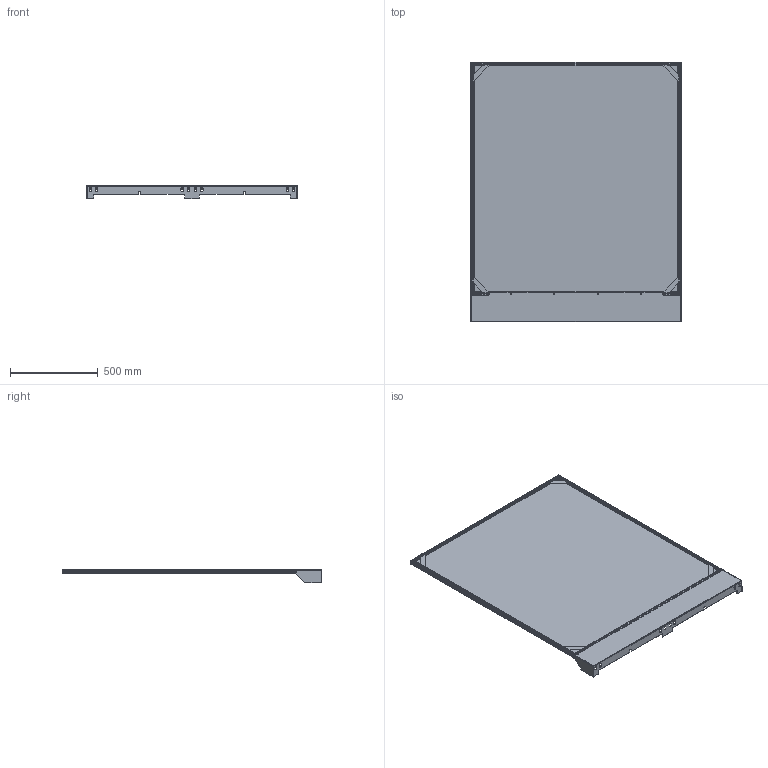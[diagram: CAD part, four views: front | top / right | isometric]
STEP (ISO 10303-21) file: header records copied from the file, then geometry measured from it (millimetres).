
FILE_DESCRIPTION (( 'STEP AP203' ), '1' );
FILE_NAME ('pcpps1200.STEP', '2021-01-26T16:37:26', ( '' ), ( '' ), 'SwSTEP 2.0', 'SolidWorks 2016', '' );
FILE_SCHEMA (( 'CONFIG_CONTROL_DESIGN' ));
Length unit declared in the file: inch
Products named in the file (11): 89186703_DEFAULT; 89186868_DEFAULT; pcpps1200; 89185883_DEFAULT; 89184919_600W; 89184821_DEFAULT; 89186876_DEFAULT; 89184823; 89184808; 89185586; 89186646_5537T425
Assembly tree (47 placements, depth 3):
  pcpps1200
    89184823
    89186868_DEFAULT
      89185586
      89184919_600W  x2
      89184821_DEFAULT  x2
      89184808  x4
      89186703_DEFAULT  x2
      89185883_DEFAULT  x2
      89186646_5537T425  x8
      89186876_DEFAULT  x24
Bounding box: 1199 x 1479.57 x 77.8 mm (x, y, z)
Volume: 6338713.9 mm3; surface area: 4697739.9 mm2
Topology: 46 solids, 46 shells, 2056 faces, 5276 edges, 3408 vertices
Faces by surface type: cylinder 956, plane 762, cone 216, bspline 74, sphere 48
Entity records: 20912 total; most frequent: CARTESIAN_POINT 4990, DIRECTION 2916, ORIENTED_EDGE 2884, EDGE_CURVE 1442, LINE 976, VECTOR 976, AXIS2_PLACEMENT_3D 970, VERTEX_POINT 944
